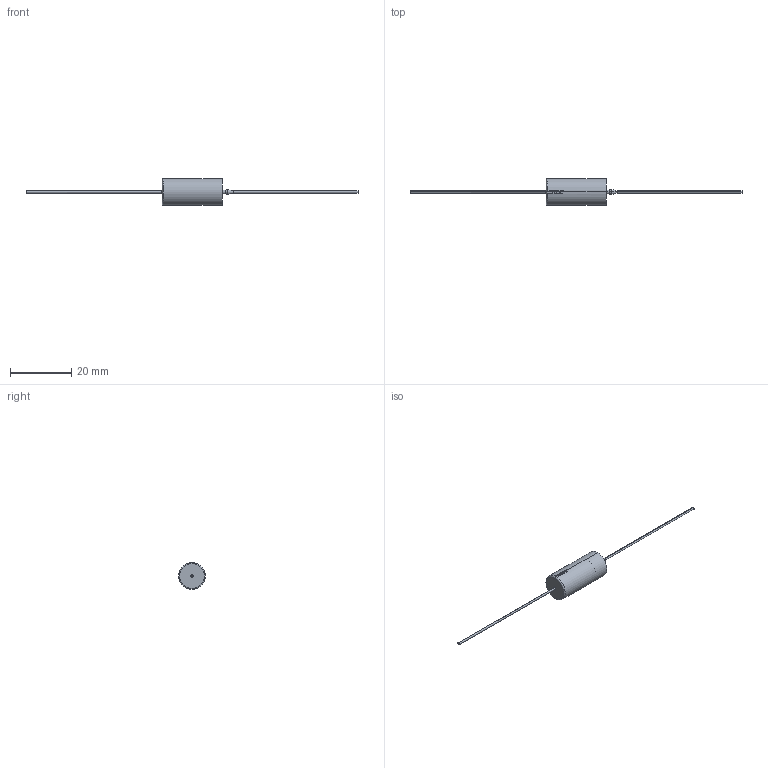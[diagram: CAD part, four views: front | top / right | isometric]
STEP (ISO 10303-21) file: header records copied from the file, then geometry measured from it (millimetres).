
FILE_DESCRIPTION (( 'STEP AP214' ), '1' );
FILE_NAME ('CTAM_AHTWG_D8.79L19.84L223.42LL44.45F0.69G4.25.STEP', '2019-07-24T15:27:41', ( '' ), ( '' ), 'SwSTEP 2.0', 'SolidWorks 2014', '' );
FILE_SCHEMA (( 'AUTOMOTIVE_DESIGN' ));
Length unit declared in the file: millimetre
Products named in the file (1): CTAM_AHTWG_D8.79L19.84L223.42LL44.45F0.69G4.25
Bounding box: 108.74 x 8.79 x 8.79 mm (x, y, z)
Volume: 964.3 mm3; surface area: 1009.3 mm2
Topology: 1 solids, 1 shells, 98 faces, 265 edges, 174 vertices
Faces by surface type: bspline 31, cylinder 30, plane 29, cone 6, torus 2
Entity records: 4088 total; most frequent: CARTESIAN_POINT 1158, ORIENTED_EDGE 530, DIRECTION 282, EDGE_CURVE 265, VERTEX_POINT 174, B_SPLINE_CURVE_WITH_KNOTS 151, EDGE_LOOP 103, AXIS2_PLACEMENT_3D 100
